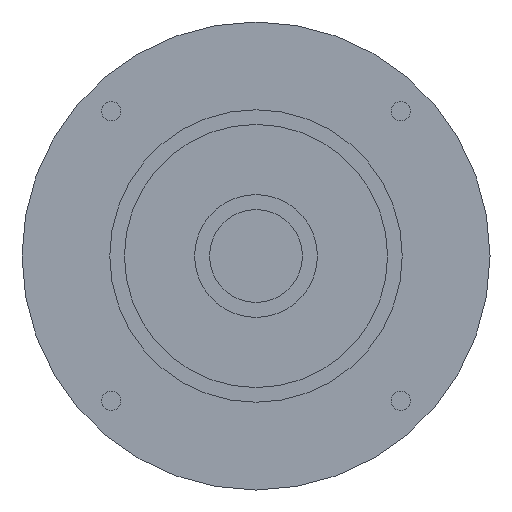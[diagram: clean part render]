
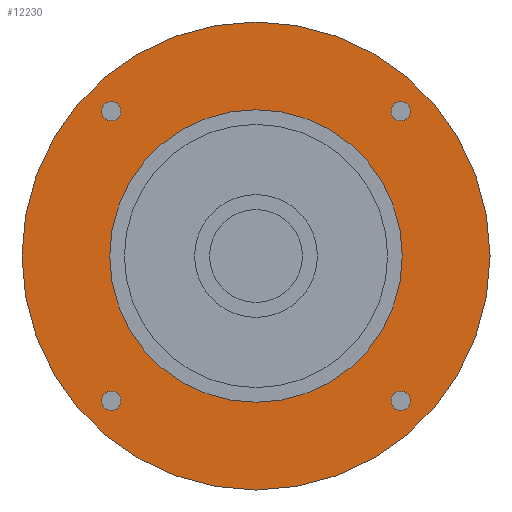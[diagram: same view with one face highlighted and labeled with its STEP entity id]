
A CAD part, left-side view. The second image highlights one B-rep face of the part: STEP entity #12230.
In plain terms, the highlighted planar face has unit normal (-1, 0, 0) as drawn and (0, 0, -1) by its records, which use the part's own axes.
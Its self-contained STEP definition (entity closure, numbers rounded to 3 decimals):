
#8640=CARTESIAN_POINT('',(-26.399,24.749,-42.2));
#8650=VERTEX_POINT('',#8640);
#8830=CARTESIAN_POINT('',(-23.099,24.749,-42.2));
#8840=VERTEX_POINT('',#8830);
#8870=CARTESIAN_POINT('',(-24.749,24.749,-42.2));
#8880=DIRECTION('',(0.,0.,-1.));
#8890=DIRECTION('',(1.,0.,0.));
#8900=AXIS2_PLACEMENT_3D('',#8870,#8880,#8890);
#8910=CIRCLE('',#8900,1.65);
#8920=EDGE_CURVE('',#8650,#8840,#8910,.T.);
#9060=CARTESIAN_POINT('',(23.099,24.749,-42.2));
#9070=VERTEX_POINT('',#9060);
#9150=CARTESIAN_POINT('',(26.399,24.749,-42.2));
#9160=VERTEX_POINT('',#9150);
#9190=CARTESIAN_POINT('',(24.749,24.749,-42.2));
#9200=DIRECTION('',(0.,0.,-1.));
#9210=DIRECTION('',(1.,0.,0.));
#9220=AXIS2_PLACEMENT_3D('',#9190,#9200,#9210);
#9230=CIRCLE('',#9220,1.65);
#9240=EDGE_CURVE('',#9070,#9160,#9230,.T.);
#11350=CARTESIAN_POINT('',(-40.,0.,-42.2));
#11360=VERTEX_POINT('',#11350);
#11390=CARTESIAN_POINT('',(0.,0.,
-42.2));
#11400=DIRECTION('',(0.,0.,-1.));
#11410=DIRECTION('',(1.,0.,0.));
#11420=AXIS2_PLACEMENT_3D('',#11390,#11400,#11410);
#11430=CIRCLE('',#11420,40.);
#11440=CARTESIAN_POINT('',(40.,0.,-42.2));
#11450=VERTEX_POINT('',#11440);
#11460=EDGE_CURVE('',#11360,#11450,#11430,.T.);
#11580=CARTESIAN_POINT('',(0.,0.,
-42.2));
#11590=DIRECTION('',(0.,0.,1.));
#11600=DIRECTION('',(1.,0.,0.));
#11610=AXIS2_PLACEMENT_3D('',#11580,#11590,#11600);
#11620=PLANE('',#11610);
#11630=CARTESIAN_POINT('',(24.749,-24.749,-42.2));
#11640=DIRECTION('',(0.,0.,-1.));
#11650=DIRECTION('',(1.,0.,0.));
#11660=AXIS2_PLACEMENT_3D('',#11630,#11640,#11650);
#11670=CIRCLE('',#11660,1.65);
#11680=CARTESIAN_POINT('',(26.399,-24.749,-42.2));
#11690=VERTEX_POINT('',#11680);
#11700=CARTESIAN_POINT('',(23.099,-24.749,-42.2));
#11710=VERTEX_POINT('',#11700);
#11720=EDGE_CURVE('',#11690,#11710,#11670,.T.);
#11730=ORIENTED_EDGE('',*,*,#11720,.F.);
#11740=EDGE_CURVE('',#11710,#11690,#11670,.T.);
#11750=ORIENTED_EDGE('',*,*,#11740,.F.);
#11760=EDGE_LOOP('',(#11750,#11730));
#11770=FACE_BOUND('',#11760,.T.);
#11780=CARTESIAN_POINT('',(0.,0.,
-42.2));
#11790=DIRECTION('',(0.,0.,1.));
#11800=DIRECTION('',(-1.,0.,0.));
#11810=AXIS2_PLACEMENT_3D('',#11780,#11790,#11800);
#11820=CIRCLE('',#11810,25.);
#11830=CARTESIAN_POINT('',(-25.,0.,-42.2));
#11840=VERTEX_POINT('',#11830);
#11850=CARTESIAN_POINT('',(25.,0.,-42.2));
#11860=VERTEX_POINT('',#11850);
#11870=EDGE_CURVE('',#11840,#11860,#11820,.T.);
#11880=ORIENTED_EDGE('',*,*,#11870,.T.);
#11890=EDGE_CURVE('',#11860,#11840,#11820,.T.);
#11900=ORIENTED_EDGE('',*,*,#11890,.T.);
#11910=EDGE_LOOP('',(#11900,#11880));
#11920=FACE_BOUND('',#11910,.T.);
#11930=CARTESIAN_POINT('',(-24.749,-24.749,-42.2));
#11940=DIRECTION('',(0.,0.,-1.));
#11950=DIRECTION('',(1.,0.,0.));
#11960=AXIS2_PLACEMENT_3D('',#11930,#11940,#11950);
#11970=CIRCLE('',#11960,1.65);
#11980=CARTESIAN_POINT('',(-23.099,-24.749,-42.2));
#11990=VERTEX_POINT('',#11980);
#12000=CARTESIAN_POINT('',(-26.399,-24.749,-42.2));
#12010=VERTEX_POINT('',#12000);
#12020=EDGE_CURVE('',#11990,#12010,#11970,.T.);
#12030=ORIENTED_EDGE('',*,*,#12020,.F.);
#12040=EDGE_CURVE('',#12010,#11990,#11970,.T.);
#12050=ORIENTED_EDGE('',*,*,#12040,.F.);
#12060=EDGE_LOOP('',(#12050,#12030));
#12070=FACE_BOUND('',#12060,.T.);
#12080=EDGE_CURVE('',#8840,#8650,#8910,.T.);
#12090=ORIENTED_EDGE('',*,*,#12080,.F.);
#12100=ORIENTED_EDGE('',*,*,#8920,.F.);
#12110=EDGE_LOOP('',(#12100,#12090));
#12120=FACE_BOUND('',#12110,.T.);
#12130=EDGE_CURVE('',#9160,#9070,#9230,.T.);
#12140=ORIENTED_EDGE('',*,*,#12130,.F.);
#12150=ORIENTED_EDGE('',*,*,#9240,.F.);
#12160=EDGE_LOOP('',(#12150,#12140));
#12170=FACE_BOUND('',#12160,.T.);
#12180=EDGE_CURVE('',#11450,#11360,#11430,.T.);
#12190=ORIENTED_EDGE('',*,*,#12180,.T.);
#12200=ORIENTED_EDGE('',*,*,#11460,.T.);
#12210=EDGE_LOOP('',(#12200,#12190));
#12220=FACE_OUTER_BOUND('',#12210,.T.);
#12230=ADVANCED_FACE('',(#11770,#11920,#12070,#12120,#12170,#12220),
#11620,.F.);
